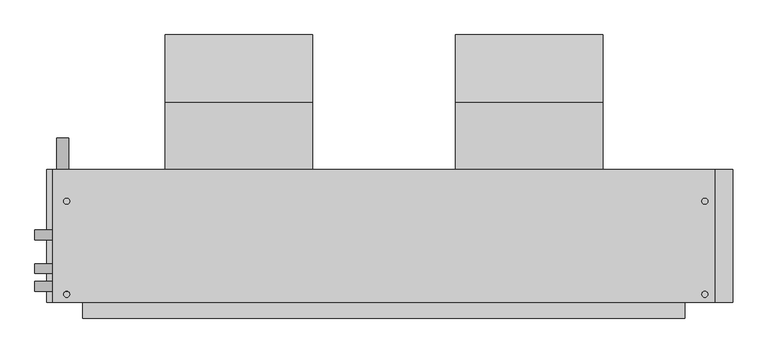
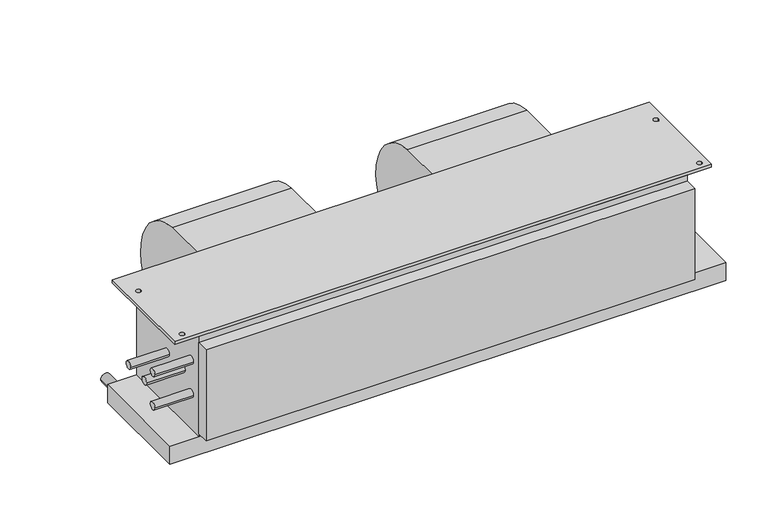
"""IFC4 building model written with IfcOpenShell, lengths in millimetres: proxy geometry, Concealed_Horizontal_Fan_Coil_Unit_-_42CAA_-_CARRIER_-_4-Pipe_LH_2022 : Size 08 - 277v/60Hz/1Ph - 4/1 Coil."""

from ifc_helpers import new_model, si_unit, point, frame, frame_2d, origin, place, context, project, spatial, polyline, circle_curve, trimmed, segment, composite_curve, outline, extrude, source, transform, mapped, element, save


def mechanical_equipment_732dcff0(model_context):
    return source(origin(), model_context, "Body", "SweptSolid", [
        extrude(outline(composite_curve([segment(trimmed(circle_curve(frame_2d((-33.198831, -136.0299844)), 117.3559541), [point((-23.8125, -19.05))], [point((84.1375, -138.176))], False, "CARTESIAN"), True, "CONTINUOUS"), segment(trimmed(circle_curve(frame_2d((-11.5977337, -136.4250563)), 95.7512443), [point((84.1375, -138.176))], [point((-23.8125, -231.394))], False, "CARTESIAN"), True, "CONTINUOUS"), segment(trimmed(circle_curve(frame_2d((-11.6288131, -136.6666968)), 95.5076133), [point((-23.8125, -231.394))], [point((-107.1245, -138.176))], False, "CARTESIAN"), True, "CONTINUOUS"), segment(trimmed(circle_curve(frame_2d((-126.2059828, -138.4775816)), 19.0838659), [point((-107.1245, -138.176))], [point((-119.3963373, -120.65))], True, "CARTESIAN"), True, "CONTINUOUS"), segment(polyline([(-119.3963373, -120.65), (-131.7625, -120.65), (-131.7625, -19.05), (-23.8125, -19.05)]), True, "CONTINUOUS")], self_intersect=False)), frame((267.5255, 0.0, 0.0), z_axis=(1.0, 0.0, 0.0), x_axis=(0.0, 1.0, 0.0)), (0.0, 0.0, 1.0), 235.712),
        extrude(outline(composite_curve([segment(trimmed(circle_curve(frame_2d((-33.198831, -136.0299844)), 117.3559541), [point((-23.8125, -19.05))], [point((84.1375, -138.176))], False, "CARTESIAN"), True, "CONTINUOUS"), segment(trimmed(circle_curve(frame_2d((-11.5977337, -136.4250563)), 95.7512443), [point((84.1375, -138.176))], [point((-23.8125, -231.394))], False, "CARTESIAN"), True, "CONTINUOUS"), segment(trimmed(circle_curve(frame_2d((-11.6288131, -136.6666968)), 95.5076133), [point((-23.8125, -231.394))], [point((-107.1245, -138.176))], False, "CARTESIAN"), True, "CONTINUOUS"), segment(trimmed(circle_curve(frame_2d((-126.2059828, -138.4775816)), 19.0838659), [point((-107.1245, -138.176))], [point((-119.3963373, -120.65))], True, "CARTESIAN"), True, "CONTINUOUS"), segment(polyline([(-119.3963373, -120.65), (-131.7625, -120.65), (-131.7625, -19.05), (-23.8125, -19.05)]), True, "CONTINUOUS")], self_intersect=False)), frame((-197.612, 0.0, 0.0), z_axis=(1.0, 0.0, 0.0), x_axis=(0.0, 1.0, 0.0)), (0.0, 0.0, 1.0), 235.712),
        extrude(outline(polyline([(682.625, -131.7625), (682.625, -344.4875), (-377.825, -344.4875), (-377.825, -131.7625), (682.625, -131.7625)]), holes=[composite_curve([segment(trimmed(circle_curve(frame_2d((-355.6, -182.5625)), 4.7625), [point((-360.3625, -182.5625))], [point((-350.8375, -182.5625))], True, "CARTESIAN"), True, "CONTINUOUS"), segment(trimmed(circle_curve(frame_2d((-355.6, -182.5625)), 4.7625), [point((-350.8375, -182.5625))], [point((-360.3625, -182.5625))], True, "CARTESIAN"), True, "CONTINUOUS")], self_intersect=False), composite_curve([segment(trimmed(circle_curve(frame_2d((-355.6, -331.7875)), 4.7625), [point((-360.3625, -331.7875))], [point((-350.8375, -331.7875))], True, "CARTESIAN"), True, "CONTINUOUS"), segment(trimmed(circle_curve(frame_2d((-355.6, -331.7875)), 4.7625), [point((-350.8375, -331.7875))], [point((-360.3625, -331.7875))], True, "CARTESIAN"), True, "CONTINUOUS")], self_intersect=False), composite_curve([segment(trimmed(circle_curve(frame_2d((666.75, -182.5625)), 4.7625), [point((661.9875, -182.5625))], [point((671.5125, -182.5625))], True, "CARTESIAN"), True, "CONTINUOUS"), segment(trimmed(circle_curve(frame_2d((666.75, -182.5625)), 4.7625), [point((671.5125, -182.5625))], [point((661.9875, -182.5625))], True, "CARTESIAN"), True, "CONTINUOUS")], self_intersect=False), composite_curve([segment(trimmed(circle_curve(frame_2d((666.75, -331.7875)), 4.7625), [point((661.9875, -331.7875))], [point((671.5125, -331.7875))], True, "CARTESIAN"), True, "CONTINUOUS"), segment(trimmed(circle_curve(frame_2d((666.75, -331.7875)), 4.7625), [point((671.5125, -331.7875))], [point((661.9875, -331.7875))], True, "CARTESIAN"), True, "CONTINUOUS")], self_intersect=False)]), frame((0.0, 0.0, -6.35), z_axis=(0.0, 0.0, 1.0), x_axis=(1.0, 0.0, 0.0)), (0.0, 0.0, 1.0), 6.35),
        extrude(outline(composite_curve([segment(trimmed(circle_curve(frame_2d((-241.3, -361.95)), 9.525), [point((-241.3, -371.475))], [point((-241.3, -352.425))], False, "CARTESIAN"), True, "CONTINUOUS"), segment(trimmed(circle_curve(frame_2d((-241.3, -361.95)), 9.525), [point((-241.3, -352.425))], [point((-241.3, -371.475))], False, "CARTESIAN"), True, "CONTINUOUS")], self_intersect=False)), frame((0.0, -131.7625, 0.0), z_axis=(0.0, 1.0, 0.0), x_axis=(0.0, 0.0, 1.0)), (0.0, 0.0, 1.0), 50.8),
        extrude(outline(polyline([(635.0, -369.8875), (-330.2, -369.8875), (-330.2, -344.4875), (635.0, -344.4875), (635.0, -369.8875)])), frame((0.0, 0.0, -209.55), z_axis=(0.0, 0.0, 1.0), x_axis=(1.0, 0.0, 0.0)), (0.0, 0.0, 1.0), 190.5),
        extrude(outline(polyline([(711.2, -131.7625), (711.2, -344.4875), (-387.35, -344.4875), (-387.35, -131.7625), (711.2, -131.7625)])), frame((0.0, 0.0, -254.0), z_axis=(0.0, 0.0, 1.0), x_axis=(1.0, 0.0, 0.0)), (0.0, 0.0, 1.0), 38.1),
        extrude(outline(composite_curve([segment(trimmed(circle_curve(frame_2d((-236.5375, -104.775)), 7.9375), [point((-228.6, -104.775))], [point((-244.475, -104.775))], False, "CARTESIAN"), True, "CONTINUOUS"), segment(trimmed(circle_curve(frame_2d((-236.5375, -104.775)), 7.9375), [point((-244.475, -104.775))], [point((-228.6, -104.775))], False, "CARTESIAN"), True, "CONTINUOUS")], self_intersect=False)), frame((-406.4, 0.0, 0.0), z_axis=(1.0, 0.0, 0.0), x_axis=(0.0, 1.0, 0.0)), (0.0, 0.0, 1.0), 76.2),
        extrude(outline(composite_curve([segment(trimmed(circle_curve(frame_2d((-290.5125, -104.775)), 7.9375), [point((-282.575, -104.775))], [point((-298.45, -104.775))], False, "CARTESIAN"), True, "CONTINUOUS"), segment(trimmed(circle_curve(frame_2d((-290.5125, -104.775)), 7.9375), [point((-298.45, -104.775))], [point((-282.575, -104.775))], False, "CARTESIAN"), True, "CONTINUOUS")], self_intersect=False)), frame((-406.4, 0.0, 0.0), z_axis=(1.0, 0.0, 0.0), x_axis=(0.0, 1.0, 0.0)), (0.0, 0.0, 1.0), 76.2),
        extrude(outline(composite_curve([segment(trimmed(circle_curve(frame_2d((-319.0875, -69.85)), 7.9375), [point((-311.15, -69.85))], [point((-327.025, -69.85))], False, "CARTESIAN"), True, "CONTINUOUS"), segment(trimmed(circle_curve(frame_2d((-319.0875, -69.85)), 7.9375), [point((-327.025, -69.85))], [point((-311.15, -69.85))], False, "CARTESIAN"), True, "CONTINUOUS")], self_intersect=False)), frame((-406.4, 0.0, 0.0), z_axis=(1.0, 0.0, 0.0), x_axis=(0.0, 1.0, 0.0)), (0.0, 0.0, 1.0), 76.2),
        extrude(outline(composite_curve([segment(trimmed(circle_curve(frame_2d((-319.0875, -139.7)), 7.9375), [point((-311.15, -139.7))], [point((-327.025, -139.7))], False, "CARTESIAN"), True, "CONTINUOUS"), segment(trimmed(circle_curve(frame_2d((-319.0875, -139.7)), 7.9375), [point((-327.025, -139.7))], [point((-311.15, -139.7))], False, "CARTESIAN"), True, "CONTINUOUS")], self_intersect=False)), frame((-406.4, 0.0, 0.0), z_axis=(1.0, 0.0, 0.0), x_axis=(0.0, 1.0, 0.0)), (0.0, 0.0, 1.0), 76.2),
        extrude(outline(polyline([(635.0, -344.4875), (-330.2, -344.4875), (-330.2, -131.7625), (635.0, -131.7625), (635.0, -344.4875)])), frame((0.0, 0.0, -215.9), z_axis=(0.0, 0.0, 1.0), x_axis=(1.0, 0.0, 0.0)), (0.0, 0.0, 1.0), 209.55),
    ])


if __name__ == "__main__":
    model = new_model("IFC4")
    model_context = context("Model", 3, world=origin())
    ifc_project = project(units=[si_unit("LENGTHUNIT", "METRE", prefix="MILLI")], contexts=[model_context])
    site = spatial("IfcSite", under=ifc_project)
    building = spatial("IfcBuilding", under=site)
    placement = place(None, origin())
    mechanical_equipment_shape = mechanical_equipment_732dcff0(model_context)
    element("IfcBuildingElementProxy", 1, Name="Concealed_Horizontal_Fan_Coil_Unit_-_42CAA_-_CARRIER_-_4-Pipe_LH_2022 : Size 08 - 277v/60Hz/1Ph - 4/1 Coil", ObjectType="Concealed_Horizontal_Fan_Coil_Unit_-_42CAA_-_CARRIER_-_4-Pipe_LH_2022 : Size 08 - 277v/60Hz/1Ph - 4/1 Coil", at=placement, inside=building, context=model_context, shape_type="MappedRepresentation", body=[
        mapped(mechanical_equipment_shape, transform((0.0, 0.0, 0.0), x_axis=(1.0, 0.0, 0.0), y_axis=(0.0, 1.0, 0.0), z_axis=(0.0, 0.0, 1.0))),
    ])
    save(model, "model.ifc")
